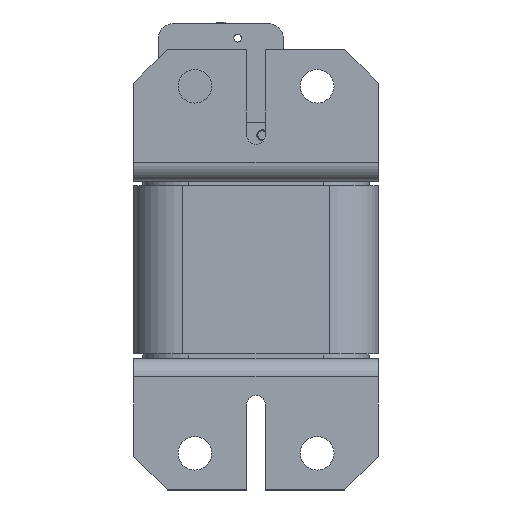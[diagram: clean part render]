
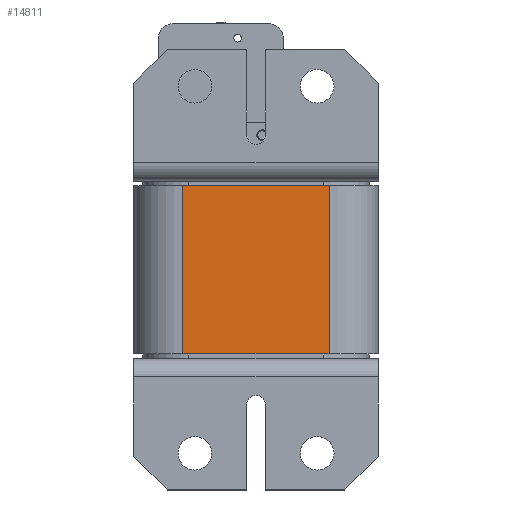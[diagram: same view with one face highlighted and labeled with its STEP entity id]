
A CAD part, front view. The second image highlights one B-rep face of the part: STEP entity #14811.
In plain terms, the highlighted planar face has unit normal (0, -1, 0).
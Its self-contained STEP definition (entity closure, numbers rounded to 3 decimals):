
#143 = EDGE_CURVE ( 'NONE', #17647, #11469, #26621, .T. ) ;
#1988 = VECTOR ( 'NONE', #10788, 1000. ) ;
#2050 = EDGE_LOOP ( 'NONE', ( #20370, #18652, #21970, #10019 ) ) ;
#2988 = EDGE_CURVE ( 'NONE', #15905, #10475, #25180, .T. ) ;
#4784 = VECTOR ( 'NONE', #16743, 1000. ) ;
#5430 = CARTESIAN_POINT ( 'NONE',  ( -53.514, -38.958, 27.5 ) ) ;
#5658 = AXIS2_PLACEMENT_3D ( 'NONE', #19307, #24934, #16884 ) ;
#8521 = PLANE ( 'NONE',  #5658 ) ;
#9379 = DIRECTION ( 'NONE',  ( 0., 0., 1. ) ) ;
#10019 = ORIENTED_EDGE ( 'NONE', *, *, #26406, .T. ) ;
#10475 = VERTEX_POINT ( 'NONE', #14395 ) ;
#10788 = DIRECTION ( 'NONE',  ( 0., 0., -1. ) ) ;
#11469 = VERTEX_POINT ( 'NONE', #31183 ) ;
#13892 = CARTESIAN_POINT ( 'NONE',  ( -69.514, -38.958, 27.5 ) ) ;
#14395 = CARTESIAN_POINT ( 'NONE',  ( -5.514, -38.958, 27.5 ) ) ;
#14547 = CARTESIAN_POINT ( 'NONE',  ( -5.514, -38.958, -27.5 ) ) ;
#14811 = ADVANCED_FACE ( 'NONE', ( #34882 ), #8521, .T. ) ;
#15905 = VERTEX_POINT ( 'NONE', #5430 ) ;
#16743 = DIRECTION ( 'NONE',  ( 1., 0., 0. ) ) ;
#16884 = DIRECTION ( 'NONE',  ( 0., 0., -1. ) ) ;
#17647 = VERTEX_POINT ( 'NONE', #22416 ) ;
#18652 = ORIENTED_EDGE ( 'NONE', *, *, #32684, .T. ) ;
#18656 = VECTOR ( 'NONE', #9379, 1000. ) ;
#19307 = CARTESIAN_POINT ( 'NONE',  ( -69.514, -38.958, -27.5 ) ) ;
#19442 = CARTESIAN_POINT ( 'NONE',  ( -69.514, -38.958, -27.5 ) ) ;
#20057 = VECTOR ( 'NONE', #30184, 1000. ) ;
#20370 = ORIENTED_EDGE ( 'NONE', *, *, #143, .T. ) ;
#21970 = ORIENTED_EDGE ( 'NONE', *, *, #2988, .F. ) ;
#22416 = CARTESIAN_POINT ( 'NONE',  ( -53.514, -38.958, -27.5 ) ) ;
#24934 = DIRECTION ( 'NONE',  ( 0., -1., 0. ) ) ;
#25180 = LINE ( 'NONE', #13892, #20057 ) ;
#25927 = LINE ( 'NONE', #14547, #18656 ) ;
#26406 = EDGE_CURVE ( 'NONE', #15905, #17647, #27697, .T. ) ;
#26621 = LINE ( 'NONE', #19442, #4784 ) ;
#27697 = LINE ( 'NONE', #31998, #1988 ) ;
#30184 = DIRECTION ( 'NONE',  ( 1., 0., 0. ) ) ;
#31183 = CARTESIAN_POINT ( 'NONE',  ( -5.514, -38.958, -27.5 ) ) ;
#31998 = CARTESIAN_POINT ( 'NONE',  ( -53.514, -38.958, -27.5 ) ) ;
#32684 = EDGE_CURVE ( 'NONE', #11469, #10475, #25927, .T. ) ;
#34882 = FACE_OUTER_BOUND ( 'NONE', #2050, .T. ) ;
